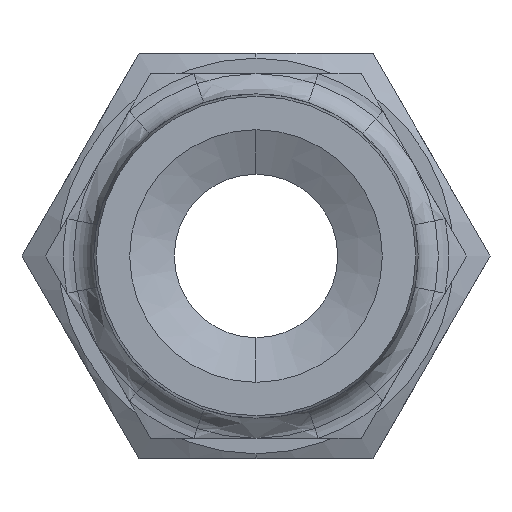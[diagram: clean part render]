
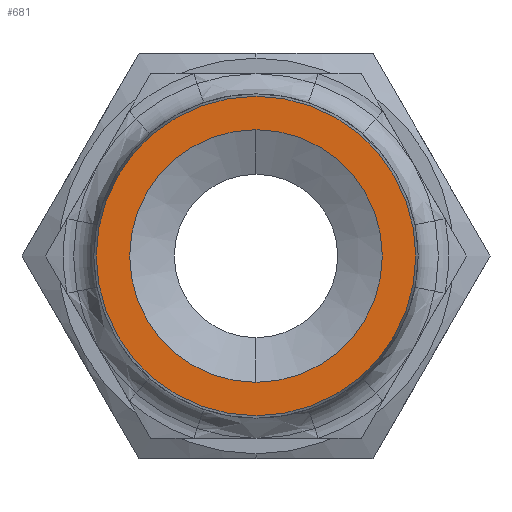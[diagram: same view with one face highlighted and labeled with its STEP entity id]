
A CAD part, left-side view. The second image highlights one B-rep face of the part: STEP entity #681.
In plain terms, the highlighted planar face has unit normal (-1, 0, 0).
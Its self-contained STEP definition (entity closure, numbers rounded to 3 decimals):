
#72 = DIRECTION ( 'NONE',  ( 0., 0., 1. ) ) ;
#73 = DIRECTION ( 'NONE',  ( -1., 0., 0. ) ) ;
#74 = CARTESIAN_POINT ( 'NONE',  ( -23.5, 0., 0. ) ) ;
#75 = AXIS2_PLACEMENT_3D ( 'NONE', #74, #73, #72 ) ;
#80 = CIRCLE ( 'NONE', #75, 4.95 ) ;
#681 = ADVANCED_FACE ( 'NONE', ( #1785, #1780 ), #1779, .T. ) ;
#682 = EDGE_LOOP ( 'NONE', ( #683, #685 ) ) ;
#683 = ORIENTED_EDGE ( 'NONE', *, *, #684, .T. ) ;
#684 = EDGE_CURVE ( 'NONE', #1093, #1092, #1773, .T. ) ;
#685 = ORIENTED_EDGE ( 'NONE', *, *, #1091, .T. ) ;
#686 = EDGE_LOOP ( 'NONE', ( #698, #700 ) ) ;
#698 = ORIENTED_EDGE ( 'NONE', *, *, #699, .F. ) ;
#699 = EDGE_CURVE ( 'NONE', #1080, #856, #80, .T. ) ;
#700 = ORIENTED_EDGE ( 'NONE', *, *, #1079, .F. ) ;
#856 = VERTEX_POINT ( 'NONE', #2201 ) ;
#1079 = EDGE_CURVE ( 'NONE', #856, #1080, #2445, .T. ) ;
#1080 = VERTEX_POINT ( 'NONE', #2436 ) ;
#1091 = EDGE_CURVE ( 'NONE', #1092, #1093, #2408, .T. ) ;
#1092 = VERTEX_POINT ( 'NONE', #2403 ) ;
#1093 = VERTEX_POINT ( 'NONE', #2402 ) ;
#1770 = DIRECTION ( 'NONE',  ( 0., 0., 1. ) ) ;
#1771 = DIRECTION ( 'NONE',  ( -1., 0., 0. ) ) ;
#1772 = AXIS2_PLACEMENT_3D ( 'NONE', #1777, #1771, #1770 ) ;
#1773 = CIRCLE ( 'NONE', #1772, 6.259 ) ;
#1774 = DIRECTION ( 'NONE',  ( 0., 0., 1. ) ) ;
#1775 = DIRECTION ( 'NONE',  ( -1., 0., 0. ) ) ;
#1776 = AXIS2_PLACEMENT_3D ( 'NONE', #1778, #1775, #1774 ) ;
#1777 = CARTESIAN_POINT ( 'NONE',  ( -23.5, 0., 0. ) ) ;
#1778 = CARTESIAN_POINT ( 'NONE',  ( -23.5, 0., 0. ) ) ;
#1779 = PLANE ( 'NONE',  #1776 ) ;
#1780 = FACE_BOUND ( 'NONE', #686, .T. ) ;
#1785 = FACE_OUTER_BOUND ( 'NONE', #682, .T. ) ;
#2201 = CARTESIAN_POINT ( 'NONE',  ( -23.5, 0., -4.95 ) ) ;
#2402 = CARTESIAN_POINT ( 'NONE',  ( -23.5, 0., 6.259 ) ) ;
#2403 = CARTESIAN_POINT ( 'NONE',  ( -23.5, 0., -6.259 ) ) ;
#2404 = DIRECTION ( 'NONE',  ( 0., 0., 1. ) ) ;
#2405 = DIRECTION ( 'NONE',  ( -1., 0., 0. ) ) ;
#2406 = CARTESIAN_POINT ( 'NONE',  ( -23.5, 0., 0. ) ) ;
#2407 = AXIS2_PLACEMENT_3D ( 'NONE', #2406, #2405, #2404 ) ;
#2408 = CIRCLE ( 'NONE', #2407, 6.259 ) ;
#2436 = CARTESIAN_POINT ( 'NONE',  ( -23.5, 0., 4.95 ) ) ;
#2437 = DIRECTION ( 'NONE',  ( 0., 0., 1. ) ) ;
#2438 = DIRECTION ( 'NONE',  ( -1., 0., 0. ) ) ;
#2439 = CARTESIAN_POINT ( 'NONE',  ( -23.5, 0., 0. ) ) ;
#2440 = AXIS2_PLACEMENT_3D ( 'NONE', #2439, #2438, #2437 ) ;
#2445 = CIRCLE ( 'NONE', #2440, 4.95 ) ;
